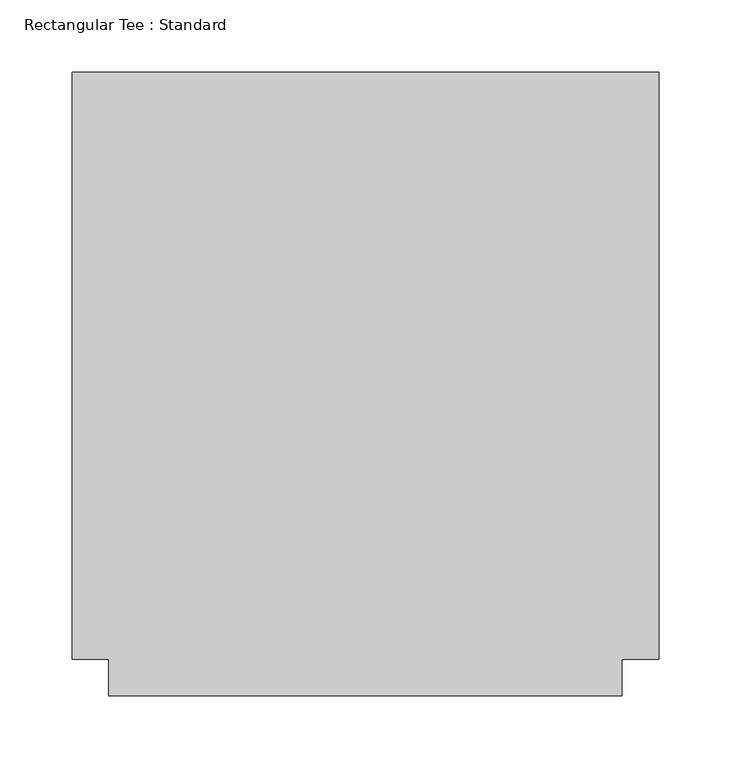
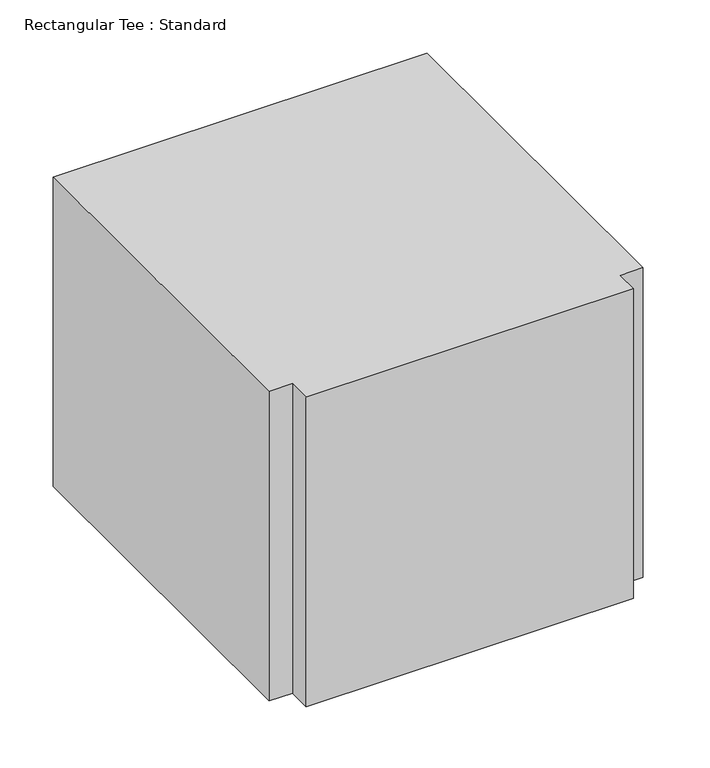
"""IFC4 building model written with IfcOpenShell, lengths in millimetres: duct fitting geometry, Rectangular Tee : Standard."""

from ifc_helpers import new_model, si_unit, frame, origin, place, context, project, spatial, polyline, outline, extrude, source, transform, mapped, element, save


def rectangular_tee_standard_6c605370(model_context):
    return source(origin(), model_context, "Body", "SweptSolid", [
        extrude(outline(polyline([(-203.2, -203.2), (-203.2, 203.2), (203.2, 203.2), (203.2, -203.2), (177.8, -203.2), (177.8, -228.6), (-177.8, -228.6), (-177.8, -203.2), (-203.2, -203.2)])), frame((0.0, 0.0, -177.8), z_axis=(0.0, 0.0, 1.0), x_axis=(1.0, 0.0, 0.0)), (0.0, 0.0, 1.0), 355.6),
    ])


if __name__ == "__main__":
    model = new_model("IFC4")
    model_context = context("Model", 3, world=origin())
    ifc_project = project(units=[si_unit("LENGTHUNIT", "METRE", prefix="MILLI")], contexts=[model_context])
    site = spatial("IfcSite", under=ifc_project)
    building = spatial("IfcBuilding", under=site)
    placement = place(None, origin())
    rectangular_tee_standard_shape = rectangular_tee_standard_6c605370(model_context)
    element("IfcDuctFitting", 1, ObjectType="Rectangular Tee : Standard", at=placement, inside=building, context=model_context, shape_type="MappedRepresentation", body=[
        mapped(rectangular_tee_standard_shape, transform((0.0, 0.0, 0.0), x_axis=(1.0, 0.0, 0.0), y_axis=(0.0, 1.0, 0.0), z_axis=(0.0, 0.0, 1.0))),
    ])
    save(model, "model.ifc")
